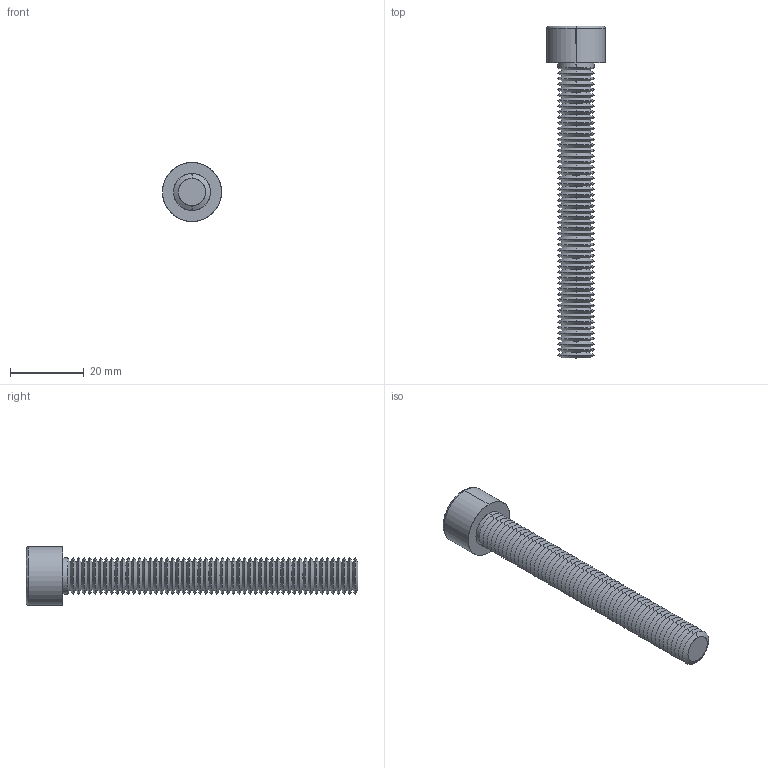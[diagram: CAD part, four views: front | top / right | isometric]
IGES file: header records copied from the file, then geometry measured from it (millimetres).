
Start section: SolidWorks IGES file using analytic representation for surfaces
Global section: file name: C:\Users\ianosborn\Desktop\N0007.91N_v2\N0007.91N_v2_20250519_IGES\91N.100.0800.igs; native system: SolidWorks 2019; preprocessor: SolidWorks 2019; author: IanOsborn; date: 250520.095551; units: millimetre
Bounding box: 16 x 90 x 16 mm (x, y, z)
Surface area: 5424.2 mm2 (no closed solid volume)
Topology: 0 solids, 0 shells, 240 faces, 1181 edges, 1179 vertices
Faces by surface type: revolution 223, bspline 17
